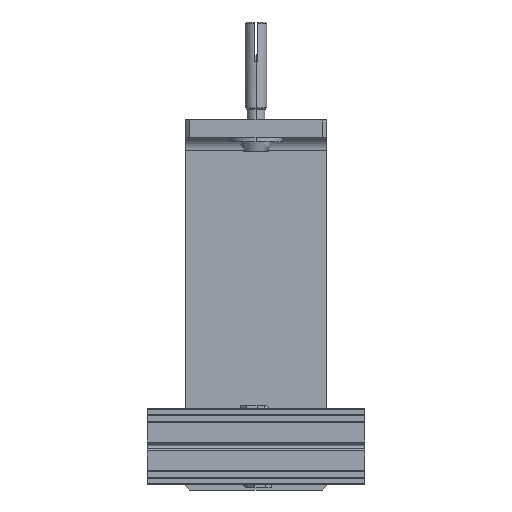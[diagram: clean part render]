
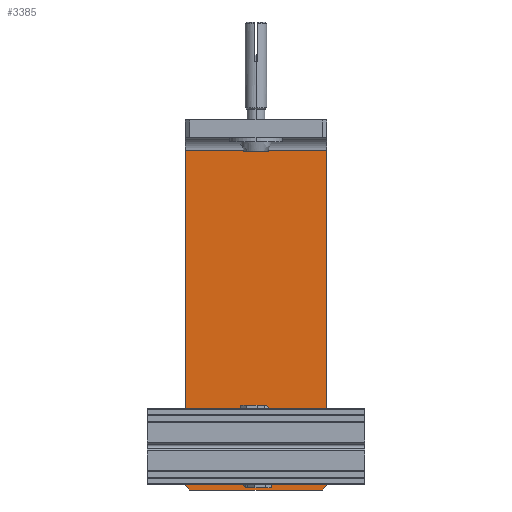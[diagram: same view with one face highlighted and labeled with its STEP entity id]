
A CAD part, front view. The second image highlights one B-rep face of the part: STEP entity #3385.
In plain terms, the highlighted planar face has unit normal (0, -1, 0).
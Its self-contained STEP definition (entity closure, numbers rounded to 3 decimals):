
#119 = VERTEX_POINT ( 'NONE', #3909 ) ;
#144 = CARTESIAN_POINT ( 'NONE',  ( 32.5, -8., -168. ) ) ;
#193 = DIRECTION ( 'NONE',  ( 0., 1., 0. ) ) ;
#230 = DIRECTION ( 'NONE',  ( 0., 0., 1. ) ) ;
#319 = DIRECTION ( 'NONE',  ( 1., 0., 0. ) ) ;
#358 = CARTESIAN_POINT ( 'NONE',  ( 4.25, -8., -153. ) ) ;
#444 = AXIS2_PLACEMENT_3D ( 'NONE', #7069, #6497, #1055 ) ;
#454 = DIRECTION ( 'NONE',  ( 0., 1., 0. ) ) ;
#517 = VECTOR ( 'NONE', #319, 1000. ) ;
#717 = CIRCLE ( 'NONE', #444, 1.65 ) ;
#747 = VERTEX_POINT ( 'NONE', #358 ) ;
#970 = VECTOR ( 'NONE', #1837, 1000. ) ;
#979 = CARTESIAN_POINT ( 'NONE',  ( -22., -8., -148.35 ) ) ;
#986 = AXIS2_PLACEMENT_3D ( 'NONE', #2298, #193, #5463 ) ;
#1055 = DIRECTION ( 'NONE',  ( 0., 0., 1. ) ) ;
#1115 = LINE ( 'NONE', #5133, #517 ) ;
#1252 = FACE_OUTER_BOUND ( 'NONE', #3974, .T. ) ;
#1323 = CARTESIAN_POINT ( 'NONE',  ( 30.5, -8., -170. ) ) ;
#1437 = ORIENTED_EDGE ( 'NONE', *, *, #5808, .T. ) ;
#1524 = CIRCLE ( 'NONE', #6703, 1.65 ) ;
#1537 = CARTESIAN_POINT ( 'NONE',  ( 32.5, -8., -14. ) ) ;
#1612 = VERTEX_POINT ( 'NONE', #4565 ) ;
#1623 = EDGE_CURVE ( 'NONE', #5596, #4334, #5328, .T. ) ;
#1629 = CARTESIAN_POINT ( 'NONE',  ( -22., -8., -150. ) ) ;
#1639 = CIRCLE ( 'NONE', #8633, 1.65 ) ;
#1650 = VECTOR ( 'NONE', #6293, 1000. ) ;
#1741 = EDGE_CURVE ( 'NONE', #747, #6425, #6307, .T. ) ;
#1767 = EDGE_CURVE ( 'NONE', #7463, #2777, #8271, .T. ) ;
#1801 = EDGE_CURVE ( 'NONE', #4358, #5027, #5040, .T. ) ;
#1837 = DIRECTION ( 'NONE',  ( 0., 0., 1. ) ) ;
#1884 = ORIENTED_EDGE ( 'NONE', *, *, #7256, .F. ) ;
#1966 = EDGE_LOOP ( 'NONE', ( #2682, #3457 ) ) ;
#2012 = CARTESIAN_POINT ( 'NONE',  ( -30.5, -8., -170. ) ) ;
#2054 = EDGE_CURVE ( 'NONE', #6468, #4334, #1115, .T. ) ;
#2066 = EDGE_CURVE ( 'NONE', #119, #2086, #1639, .T. ) ;
#2069 = EDGE_CURVE ( 'NONE', #5152, #3582, #6833, .T. ) ;
#2086 = VERTEX_POINT ( 'NONE', #979 ) ;
#2298 = CARTESIAN_POINT ( 'NONE',  ( 0., -8., -153. ) ) ;
#2407 = ORIENTED_EDGE ( 'NONE', *, *, #2054, .T. ) ;
#2497 = CARTESIAN_POINT ( 'NONE',  ( -22., -8., -150. ) ) ;
#2508 = PLANE ( 'NONE',  #3312 ) ;
#2682 = ORIENTED_EDGE ( 'NONE', *, *, #5664, .T. ) ;
#2693 = CARTESIAN_POINT ( 'NONE',  ( 0., -8., -142.75 ) ) ;
#2737 = CARTESIAN_POINT ( 'NONE',  ( 0., -8., -147. ) ) ;
#2750 = ORIENTED_EDGE ( 'NONE', *, *, #1801, .T. ) ;
#2754 = AXIS2_PLACEMENT_3D ( 'NONE', #3685, #3160, #4426 ) ;
#2777 = VERTEX_POINT ( 'NONE', #3627 ) ;
#2800 = CARTESIAN_POINT ( 'NONE',  ( -31.5, -8., -169. ) ) ;
#3085 = AXIS2_PLACEMENT_3D ( 'NONE', #6243, #4928, #230 ) ;
#3126 = ORIENTED_EDGE ( 'NONE', *, *, #1767, .F. ) ;
#3160 = DIRECTION ( 'NONE',  ( 0., 1., 0. ) ) ;
#3262 = DIRECTION ( 'NONE',  ( 0., 0., 1. ) ) ;
#3295 = DIRECTION ( 'NONE',  ( -0.707, 0., -0.707 ) ) ;
#3312 = AXIS2_PLACEMENT_3D ( 'NONE', #6558, #3913, #3262 ) ;
#3385 = ADVANCED_FACE ( 'NONE', ( #3876, #6604, #3953, #1252 ), #2508, .F. ) ;
#3457 = ORIENTED_EDGE ( 'NONE', *, *, #2066, .T. ) ;
#3461 = DIRECTION ( 'NONE',  ( -0.707, 0., 0.707 ) ) ;
#3475 = CARTESIAN_POINT ( 'NONE',  ( -32.5, -8., -91. ) ) ;
#3511 = DIRECTION ( 'NONE',  ( 0., 1., 0. ) ) ;
#3554 = DIRECTION ( 'NONE',  ( 0., 0., 1. ) ) ;
#3582 = VERTEX_POINT ( 'NONE', #4957 ) ;
#3627 = CARTESIAN_POINT ( 'NONE',  ( -32.5, -8., -14. ) ) ;
#3685 = CARTESIAN_POINT ( 'NONE',  ( 0., -8., -147. ) ) ;
#3803 = VECTOR ( 'NONE', #8255, 1000. ) ;
#3810 = CARTESIAN_POINT ( 'NONE',  ( 22., -8., -151.65 ) ) ;
#3849 = LINE ( 'NONE', #8551, #970 ) ;
#3876 = FACE_BOUND ( 'NONE', #4030, .T. ) ;
#3909 = CARTESIAN_POINT ( 'NONE',  ( -22., -8., -151.65 ) ) ;
#3913 = DIRECTION ( 'NONE',  ( 0., 1., 0. ) ) ;
#3953 = FACE_BOUND ( 'NONE', #1966, .T. ) ;
#3974 = EDGE_LOOP ( 'NONE', ( #8564, #3126, #1884, #2407, #5817, #5090 ) ) ;
#4030 = EDGE_LOOP ( 'NONE', ( #4127, #6560, #6940, #4126, #1437 ) ) ;
#4126 = ORIENTED_EDGE ( 'NONE', *, *, #2069, .T. ) ;
#4127 = ORIENTED_EDGE ( 'NONE', *, *, #1741, .T. ) ;
#4334 = VERTEX_POINT ( 'NONE', #1323 ) ;
#4358 = VERTEX_POINT ( 'NONE', #5318 ) ;
#4426 = DIRECTION ( 'NONE',  ( 0., 0., 1. ) ) ;
#4565 = CARTESIAN_POINT ( 'NONE',  ( -4.25, -8., -147. ) ) ;
#4613 = VECTOR ( 'NONE', #3295, 1000. ) ;
#4670 = EDGE_CURVE ( 'NONE', #5027, #4358, #717, .T. ) ;
#4672 = DIRECTION ( 'NONE',  ( 0., 0., 1. ) ) ;
#4928 = DIRECTION ( 'NONE',  ( 0., 1., 0. ) ) ;
#4957 = CARTESIAN_POINT ( 'NONE',  ( 4.25, -8., -147. ) ) ;
#4967 = DIRECTION ( 'NONE',  ( 0., 0., 1. ) ) ;
#5027 = VERTEX_POINT ( 'NONE', #3810 ) ;
#5040 = CIRCLE ( 'NONE', #3085, 1.65 ) ;
#5052 = VECTOR ( 'NONE', #8472, 1000. ) ;
#5088 = LINE ( 'NONE', #8516, #5052 ) ;
#5090 = ORIENTED_EDGE ( 'NONE', *, *, #7064, .T. ) ;
#5133 = CARTESIAN_POINT ( 'NONE',  ( 0., -8., -170. ) ) ;
#5152 = VERTEX_POINT ( 'NONE', #2693 ) ;
#5261 = CARTESIAN_POINT ( 'NONE',  ( -4.25, -8., -153. ) ) ;
#5318 = CARTESIAN_POINT ( 'NONE',  ( 22., -8., -148.35 ) ) ;
#5328 = LINE ( 'NONE', #7259, #4613 ) ;
#5463 = DIRECTION ( 'NONE',  ( 0., 0., 1. ) ) ;
#5533 = LINE ( 'NONE', #6191, #3803 ) ;
#5596 = VERTEX_POINT ( 'NONE', #144 ) ;
#5664 = EDGE_CURVE ( 'NONE', #2086, #119, #1524, .T. ) ;
#5808 = EDGE_CURVE ( 'NONE', #3582, #747, #5088, .T. ) ;
#5817 = ORIENTED_EDGE ( 'NONE', *, *, #1623, .F. ) ;
#5886 = VECTOR ( 'NONE', #4967, 1000. ) ;
#6075 = EDGE_CURVE ( 'NONE', #2777, #8602, #5533, .T. ) ;
#6191 = CARTESIAN_POINT ( 'NONE',  ( -32.5, -8., -14. ) ) ;
#6243 = CARTESIAN_POINT ( 'NONE',  ( 22., -8., -150. ) ) ;
#6293 = DIRECTION ( 'NONE',  ( 0., 0., 1. ) ) ;
#6307 = CIRCLE ( 'NONE', #986, 4.25 ) ;
#6328 = EDGE_CURVE ( 'NONE', #6425, #1612, #3849, .T. ) ;
#6392 = EDGE_CURVE ( 'NONE', #1612, #5152, #7802, .T. ) ;
#6421 = VECTOR ( 'NONE', #3461, 1000. ) ;
#6425 = VERTEX_POINT ( 'NONE', #5261 ) ;
#6468 = VERTEX_POINT ( 'NONE', #2012 ) ;
#6497 = DIRECTION ( 'NONE',  ( 0., 1., 0. ) ) ;
#6558 = CARTESIAN_POINT ( 'NONE',  ( -32.5, -8., -170. ) ) ;
#6560 = ORIENTED_EDGE ( 'NONE', *, *, #6328, .T. ) ;
#6578 = DIRECTION ( 'NONE',  ( 0., 1., 0. ) ) ;
#6604 = FACE_BOUND ( 'NONE', #8664, .T. ) ;
#6703 = AXIS2_PLACEMENT_3D ( 'NONE', #1629, #3511, #3554 ) ;
#6833 = CIRCLE ( 'NONE', #2754, 4.25 ) ;
#6940 = ORIENTED_EDGE ( 'NONE', *, *, #6392, .T. ) ;
#7064 = EDGE_CURVE ( 'NONE', #5596, #8602, #7699, .T. ) ;
#7069 = CARTESIAN_POINT ( 'NONE',  ( 22., -8., -150. ) ) ;
#7256 = EDGE_CURVE ( 'NONE', #6468, #7463, #8530, .T. ) ;
#7259 = CARTESIAN_POINT ( 'NONE',  ( 31.5, -8., -169. ) ) ;
#7463 = VERTEX_POINT ( 'NONE', #7983 ) ;
#7699 = LINE ( 'NONE', #8401, #1650 ) ;
#7780 = ORIENTED_EDGE ( 'NONE', *, *, #4670, .T. ) ;
#7802 = CIRCLE ( 'NONE', #8367, 4.25 ) ;
#7820 = DIRECTION ( 'NONE',  ( 0., 0., 1. ) ) ;
#7983 = CARTESIAN_POINT ( 'NONE',  ( -32.5, -8., -168. ) ) ;
#8255 = DIRECTION ( 'NONE',  ( 1., 0., 0. ) ) ;
#8271 = LINE ( 'NONE', #3475, #5886 ) ;
#8367 = AXIS2_PLACEMENT_3D ( 'NONE', #2737, #6578, #4672 ) ;
#8401 = CARTESIAN_POINT ( 'NONE',  ( 32.5, -8., -91. ) ) ;
#8472 = DIRECTION ( 'NONE',  ( 0., 0., -1. ) ) ;
#8516 = CARTESIAN_POINT ( 'NONE',  ( 4.25, -8., -150. ) ) ;
#8530 = LINE ( 'NONE', #2800, #6421 ) ;
#8551 = CARTESIAN_POINT ( 'NONE',  ( -4.25, -8., -150. ) ) ;
#8564 = ORIENTED_EDGE ( 'NONE', *, *, #6075, .F. ) ;
#8602 = VERTEX_POINT ( 'NONE', #1537 ) ;
#8633 = AXIS2_PLACEMENT_3D ( 'NONE', #2497, #454, #7820 ) ;
#8664 = EDGE_LOOP ( 'NONE', ( #2750, #7780 ) ) ;
